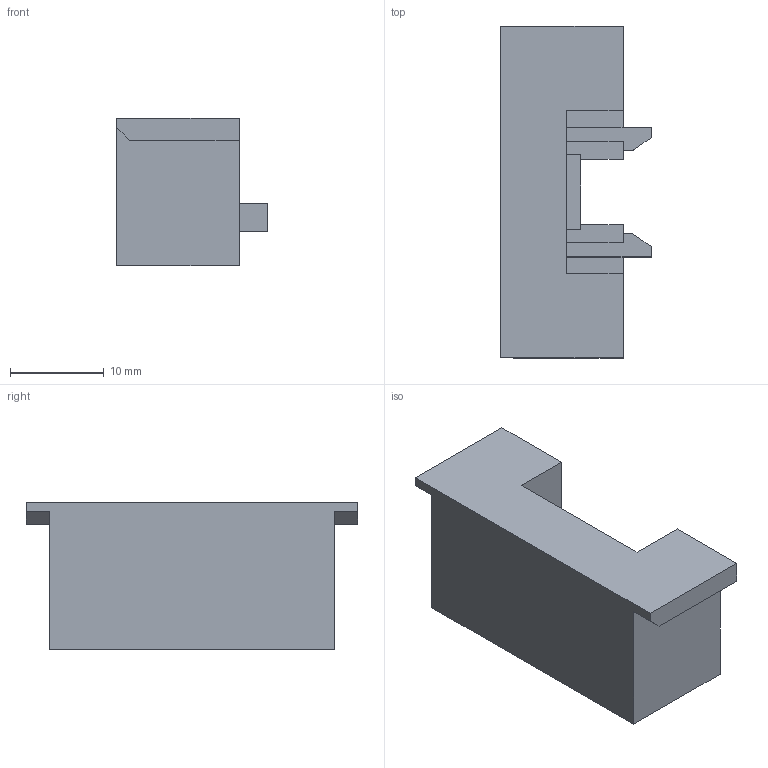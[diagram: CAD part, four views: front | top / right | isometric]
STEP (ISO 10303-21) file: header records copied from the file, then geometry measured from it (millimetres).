
FILE_DESCRIPTION(/* description */ ('STEP AP242','CAx-IF Rec.Pracs.---Representation and Presentation of Product Manufacturing Information (PMI)---4.0---2014-10-13','CAx-IF Rec.Pracs.---3D Tessellated Geometry---0.4---2014-09-14','2;1'),/* implementation_level */ '2;1');
FILE_NAME(/* name */ '687e6bb1f344454910d48096',/* time_stamp */ '2025-07-21T16:32:49Z',/* author */ (''),/* organization */ (''),/* preprocessor_version */ 'ST-DEVELOPER v20',/* originating_system */ 'ONSHAPE BY PTC INC, 1.201',/* authorisation */ ' ');
FILE_SCHEMA (('AP242_MANAGED_MODEL_BASED_3D_ENGINEERING_MIM_LF { 1 0 10303 442 1 1 4 }'));
Length unit declared in the file: metre
Products named in the file (1): Power Switch Mount
Bounding box: 16.07 x 35.45 x 15.75 mm (x, y, z)
Volume: 4968.5 mm3; surface area: 2665.3 mm2
Topology: 1 solids, 1 shells, 45 faces, 120 edges, 80 vertices
Faces by surface type: plane 45
Entity records: 1396 total; most frequent: CARTESIAN_POINT 246, ORIENTED_EDGE 240, DIRECTION 212, EDGE_CURVE 120, LINE 120, VECTOR 120, VERTEX_POINT 80, EDGE_LOOP 48
